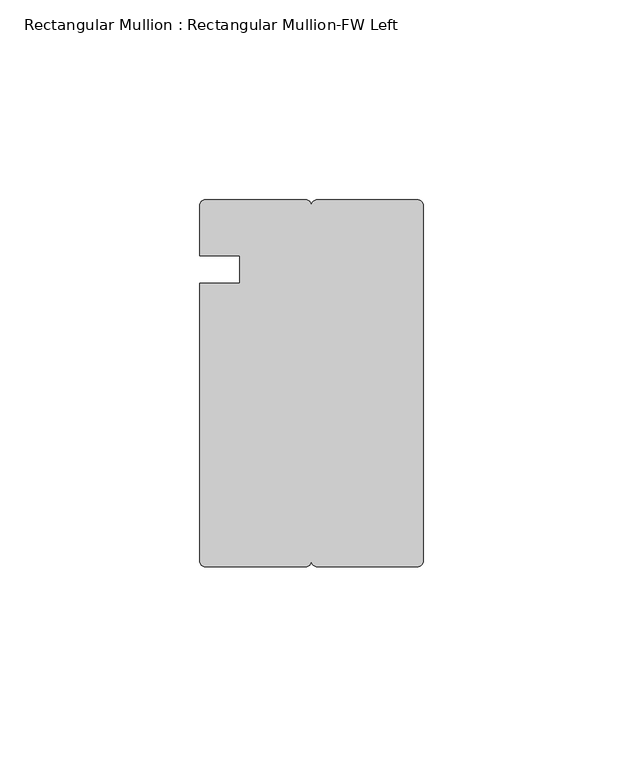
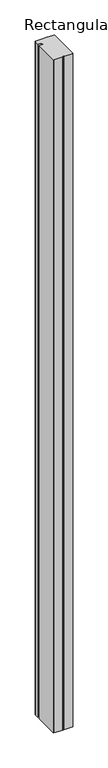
"""IFC4 building model written with IfcOpenShell, lengths in millimetres: member geometry, Rectangular Mullion : Rectangular Mullion-FW Left."""

from ifc_helpers import new_model, si_unit, frame, origin, place, context, project, spatial, circle_curve, source, transform, mapped, element, save
from ifc_brep_helpers import plane_surface, cylinder_surface, advanced_brep


def rectangular_mullion_rectangular_mullion_fw_left_6e35ccd5(model_context):
    return source(origin(), model_context, "Body", "AdvancedBrep", [
        advanced_brep(
        [(-54.5201031, 0.0, 0.0), (-56.0, -1.4798969, 0.0), (-56.0, -14.0, 0.0), (-46.0, -14.0, 0.0), (-46.0, -21.0, 0.0), (-56.0, -21.0, 0.0), (-56.0, -90.5201031, 0.0), (-54.5201031, -92.0, 0.0), (-29.4798969, -92.0, 0.0), (-28.0, -90.5201031, 0.0), (-26.5201031, -92.0, 0.0), (-1.4798969, -92.0, 0.0), (0.0, -90.5201031, 0.0), (0.0, -1.4798969, 0.0), (-1.4798969, 0.0, 0.0), (-26.5201031, 0.0, 0.0), (-28.0, -1.4798969, 0.0), (-29.4798969, 0.0, 0.0), (-54.5201031, 0.0, -2038.0), (-29.4798969, 0.0, -2038.0), (-28.0, -1.4798969, -2038.0), (-26.5201031, 0.0, -2038.0), (-1.4798969, 0.0, -2038.0), (0.0, -1.4798969, -2038.0), (0.0, -90.5201031, -2038.0), (-1.4798969, -92.0, -2038.0), (-26.5201031, -92.0, -2038.0), (-28.0, -90.5201031, -2038.0), (-29.4798969, -92.0, -2038.0), (-54.5201031, -92.0, -2038.0), (-56.0, -90.5201031, -2038.0), (-56.0, -21.0, -2038.0), (-46.0, -21.0, -2038.0), (-46.0, -14.0, -2038.0), (-56.0, -14.0, -2038.0), (-56.0, -1.4798969, -2038.0)],
        [
            (0, 1, circle_curve(frame((-54.5201031, -1.4798969, 0.0), z_axis=(0.0, 0.0, 1.0), x_axis=(-1.0, 0.0, 0.0)), 1.4798969)),
            (1, 2),
            (2, 3),
            (3, 4),
            (4, 5),
            (5, 6),
            (6, 7, circle_curve(frame((-54.5201031, -90.5201031, 0.0), z_axis=(0.0, 0.0, 1.0), x_axis=(-1.0, 0.0, 0.0)), 1.4798969)),
            (7, 8),
            (8, 9, circle_curve(frame((-29.4798969, -90.5201031, 0.0), z_axis=(0.0, 0.0, 1.0), x_axis=(-1.0, 0.0, 0.0)), 1.4798969)),
            (9, 10, circle_curve(frame((-26.5201031, -90.5201031, 0.0), z_axis=(0.0, 0.0, 1.0), x_axis=(-1.0, 0.0, 0.0)), 1.4798969)),
            (10, 11),
            (11, 12, circle_curve(frame((-1.4798969, -90.5201031, 0.0), z_axis=(0.0, 0.0, 1.0), x_axis=(-1.0, 0.0, 0.0)), 1.4798969)),
            (12, 13),
            (13, 14, circle_curve(frame((-1.4798969, -1.4798969, 0.0), z_axis=(0.0, 0.0, 1.0), x_axis=(-1.0, 0.0, 0.0)), 1.4798969)),
            (14, 15),
            (15, 16, circle_curve(frame((-26.5201031, -1.4798969, 0.0), z_axis=(0.0, 0.0, 1.0), x_axis=(-1.0, 0.0, 0.0)), 1.4798969)),
            (16, 17, circle_curve(frame((-29.4798969, -1.4798969, 0.0), z_axis=(0.0, 0.0, 1.0), x_axis=(-1.0, 0.0, 0.0)), 1.4798969)),
            (17, 0),
            (18, 19),
            (19, 20, circle_curve(frame((-29.4798969, -1.4798969, -2038.0), z_axis=(0.0, 0.0, -1.0), x_axis=(-1.0, 0.0, 0.0)), 1.4798969)),
            (20, 21, circle_curve(frame((-26.5201031, -1.4798969, -2038.0), z_axis=(0.0, 0.0, -1.0), x_axis=(-1.0, 0.0, 0.0)), 1.4798969)),
            (21, 22),
            (22, 23, circle_curve(frame((-1.4798969, -1.4798969, -2038.0), z_axis=(0.0, 0.0, -1.0), x_axis=(-1.0, 0.0, 0.0)), 1.4798969)),
            (23, 24),
            (24, 25, circle_curve(frame((-1.4798969, -90.5201031, -2038.0), z_axis=(0.0, 0.0, -1.0), x_axis=(-1.0, 0.0, 0.0)), 1.4798969)),
            (25, 26),
            (26, 27, circle_curve(frame((-26.5201031, -90.5201031, -2038.0), z_axis=(0.0, 0.0, -1.0), x_axis=(-1.0, 0.0, 0.0)), 1.4798969)),
            (27, 28, circle_curve(frame((-29.4798969, -90.5201031, -2038.0), z_axis=(0.0, 0.0, -1.0), x_axis=(-1.0, 0.0, 0.0)), 1.4798969)),
            (28, 29),
            (29, 30, circle_curve(frame((-54.5201031, -90.5201031, -2038.0), z_axis=(0.0, 0.0, -1.0), x_axis=(-1.0, 0.0, 0.0)), 1.4798969)),
            (30, 31),
            (31, 32),
            (32, 33),
            (33, 34),
            (34, 35),
            (35, 18, circle_curve(frame((-54.5201031, -1.4798969, -2038.0), z_axis=(0.0, 0.0, -1.0), x_axis=(-1.0, 0.0, 0.0)), 1.4798969)),
            (0, 18),
            (35, 1),
            (34, 2),
            (33, 3),
            (32, 4),
            (31, 5),
            (30, 6),
            (29, 7),
            (28, 8),
            (27, 9),
            (26, 10),
            (25, 11),
            (24, 12),
            (23, 13),
            (22, 14),
            (21, 15),
            (20, 16),
            (19, 17),
        ],
        [
            plane_surface(frame((0.0, -107.1077683, 0.0), z_axis=(0.0, 0.0, 1.0), x_axis=(-1.0, 0.0, 0.0))),
            plane_surface(frame((0.0, -107.1077683, -2038.0), z_axis=(0.0, 0.0, -1.0), x_axis=(-1.0, 0.0, 0.0))),
            cylinder_surface(frame((-54.5201031, -1.4798969, 0.0), z_axis=(0.0, 0.0, 1.0), x_axis=(-1.0, 0.0, 0.0)), 1.4798969),
            plane_surface(frame((-56.0, -1.4798969, 0.0), z_axis=(-1.0, 0.0, 0.0), x_axis=(0.0, 0.0, -1.0))),
            plane_surface(frame((-56.0, -14.0, 0.0), z_axis=(0.0, -1.0, 0.0), x_axis=(0.0, 0.0, -1.0))),
            plane_surface(frame((-46.0, -14.0, 0.0), z_axis=(-1.0, 0.0, 0.0), x_axis=(0.0, 0.0, -1.0))),
            plane_surface(frame((-46.0, -21.0, 0.0), z_axis=(0.0, 1.0, 0.0), x_axis=(0.0, 0.0, -1.0))),
            plane_surface(frame((-56.0, -21.0, 0.0), z_axis=(-1.0, 0.0, 0.0), x_axis=(0.0, 0.0, -1.0))),
            cylinder_surface(frame((-54.5201031, -90.5201031, 0.0), z_axis=(0.0, 0.0, 1.0), x_axis=(-1.0, 0.0, 0.0)), 1.4798969),
            plane_surface(frame((-54.5201031, -92.0, 0.0), z_axis=(0.0, -1.0, 0.0), x_axis=(0.0, 0.0, -1.0))),
            cylinder_surface(frame((-29.4798969, -90.5201031, 0.0), z_axis=(0.0, 0.0, 1.0), x_axis=(-1.0, 0.0, 0.0)), 1.4798969),
            cylinder_surface(frame((-26.5201031, -90.5201031, 0.0), z_axis=(0.0, 0.0, 1.0), x_axis=(-1.0, 0.0, 0.0)), 1.4798969),
            plane_surface(frame((-26.5201031, -92.0, 0.0), z_axis=(0.0, -1.0, 0.0), x_axis=(0.0, 0.0, -1.0))),
            cylinder_surface(frame((-1.4798969, -90.5201031, 0.0), z_axis=(0.0, 0.0, 1.0), x_axis=(-1.0, 0.0, 0.0)), 1.4798969),
            plane_surface(frame((0.0, -90.5201031, 0.0), z_axis=(1.0, 0.0, 0.0), x_axis=(0.0, 0.0, -1.0))),
            cylinder_surface(frame((-1.4798969, -1.4798969, 0.0), z_axis=(0.0, 0.0, 1.0), x_axis=(-1.0, 0.0, 0.0)), 1.4798969),
            plane_surface(frame((-1.4798969, 0.0, 0.0), z_axis=(0.0, 1.0, 0.0), x_axis=(0.0, 0.0, -1.0))),
            cylinder_surface(frame((-26.5201031, -1.4798969, 0.0), z_axis=(0.0, 0.0, 1.0), x_axis=(-1.0, 0.0, 0.0)), 1.4798969),
            cylinder_surface(frame((-29.4798969, -1.4798969, 0.0), z_axis=(0.0, 0.0, 1.0), x_axis=(-1.0, 0.0, 0.0)), 1.4798969),
            plane_surface(frame((-29.4798969, 0.0, 0.0), z_axis=(0.0, 1.0, 0.0), x_axis=(0.0, 0.0, -1.0))),
        ],
        [
            (0, [[1, 2, 3, 4, 5, 6, 7, 8, 9, 10, 11, 12, 13, 14, 15, 16, 17, 18]]),
            (1, [[19, 20, 21, 22, 23, 24, 25, 26, 27, 28, 29, 30, 31, 32, 33, 34, 35, 36]]),
            (2, [[-1, 37, -36, 38]]),
            (3, [[-2, -38, -35, 39]]),
            (4, [[-3, -39, -34, 40]]),
            (5, [[-4, -40, -33, 41]]),
            (6, [[-5, -41, -32, 42]]),
            (7, [[-6, -42, -31, 43]]),
            (8, [[-7, -43, -30, 44]]),
            (9, [[-8, -44, -29, 45]]),
            (10, [[-9, -45, -28, 46]]),
            (11, [[-10, -46, -27, 47]]),
            (12, [[-11, -47, -26, 48]]),
            (13, [[-12, -48, -25, 49]]),
            (14, [[-13, -49, -24, 50]]),
            (15, [[-14, -50, -23, 51]]),
            (16, [[-15, -51, -22, 52]]),
            (17, [[-16, -52, -21, 53]]),
            (18, [[-17, -53, -20, 54]]),
            (19, [[-18, -54, -19, -37]]),
        ],
    ),
    ])


if __name__ == "__main__":
    model = new_model("IFC4")
    model_context = context("Model", 3, world=origin())
    ifc_project = project(units=[si_unit("LENGTHUNIT", "METRE", prefix="MILLI")], contexts=[model_context])
    site = spatial("IfcSite", under=ifc_project)
    building = spatial("IfcBuilding", under=site)
    placement = place(None, origin())
    rectangular_mullion_rectangular_mullion_fw_left_shape = rectangular_mullion_rectangular_mullion_fw_left_6e35ccd5(model_context)
    element("IfcMember", 1, ObjectType="Rectangular Mullion : Rectangular Mullion-FW Left", at=placement, inside=building, context=model_context, shape_type="MappedRepresentation", body=[
        mapped(rectangular_mullion_rectangular_mullion_fw_left_shape, transform((0.0, 0.0, 0.0), x_axis=(1.0, 0.0, 0.0), y_axis=(0.0, 1.0, 0.0), z_axis=(0.0, 0.0, 1.0))),
    ])
    save(model, "model.ifc")
